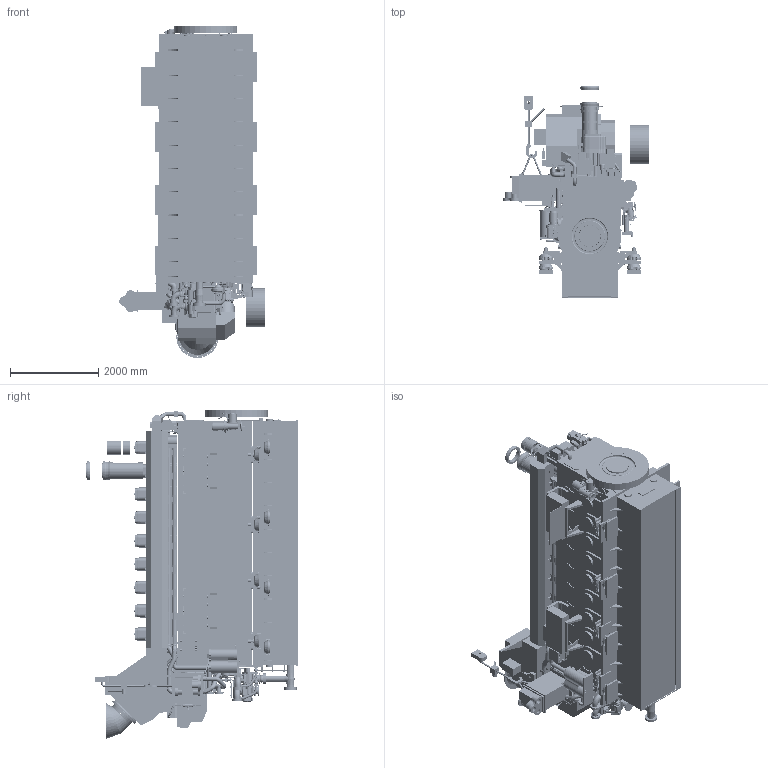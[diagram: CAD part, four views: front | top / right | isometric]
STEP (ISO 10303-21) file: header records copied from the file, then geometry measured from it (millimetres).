
FILE_DESCRIPTION((''),'2;1');
FILE_NAME('9M32E_CFWS_STP_ASM','2015-11-09T',('petera8'),('Caterpillar Motoren GmbH & Co.KG'),'PRO/ENGINEER BY PARAMETRIC TECHNOLOGY CORPORATION, 2014200','PRO/ENGINEER BY PARAMETRIC TECHNOLOGY CORPORATION, 2014200','');
FILE_SCHEMA(('CONFIG_CONTROL_DESIGN'));
Products named in the file (7): 9M32E_CFWS_STP_ENGINE_P02; 9M32E_CFWS_STP_WET_SUMP_P02; 9M32E_CFWS_STP_WET_SU_ELA_P02; 9M32E_CFWS_STP_DRY_SUMP_P02; 9M32E_CFWS_STP_RESI_MOUNT_P02; 9M32E_CFWS_STP_REMOV_SPAC_P02; 9M32E_CFWS_STP_ASM
Assembly tree (6 placements, depth 2):
  9M32E_CFWS_STP_ASM
    9M32E_CFWS_STP_ENGINE_P02
    9M32E_CFWS_STP_WET_SUMP_P02
    9M32E_CFWS_STP_WET_SU_ELA_P02
    9M32E_CFWS_STP_DRY_SUMP_P02
    9M32E_CFWS_STP_RESI_MOUNT_P02
    9M32E_CFWS_STP_REMOV_SPAC_P02
Bounding box: 3308 x 4797 x 7542 mm (x, y, z)
Surface area: 277389911.7 mm2 (no closed solid volume)
Topology: 0 solids, 721 shells, 6898 faces, 26118 edges, 19435 vertices
Faces by surface type: plane 3478, cylinder 2315, bspline 530, torus 239, cone 155, extrusion 137, sphere 42, revolution 2
Entity records: 373210 total; most frequent: CARTESIAN_POINT 124630, DIRECTION 44937, ORIENTED_EDGE 39026, EDGE_CURVE 26079, VERTEX_POINT 19435, VECTOR 15493, LINE 15356, AXIS2_PLACEMENT_3D 14721
